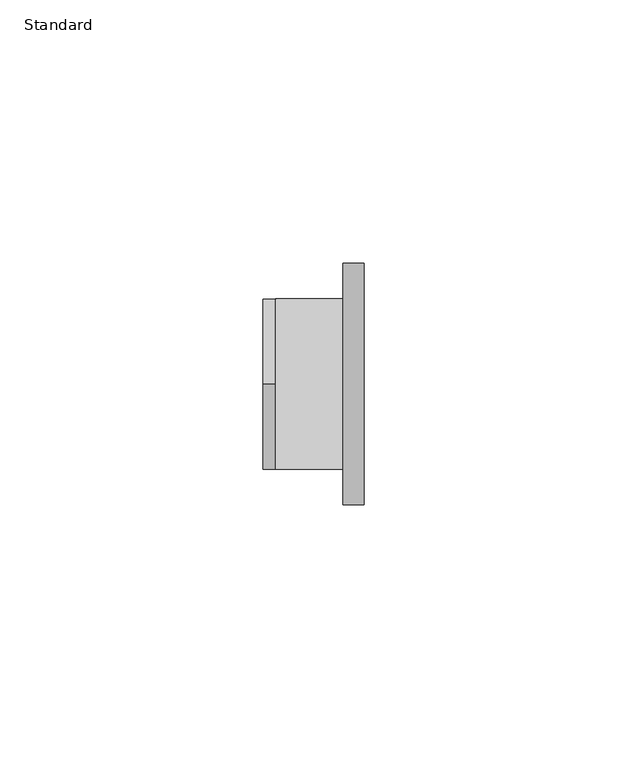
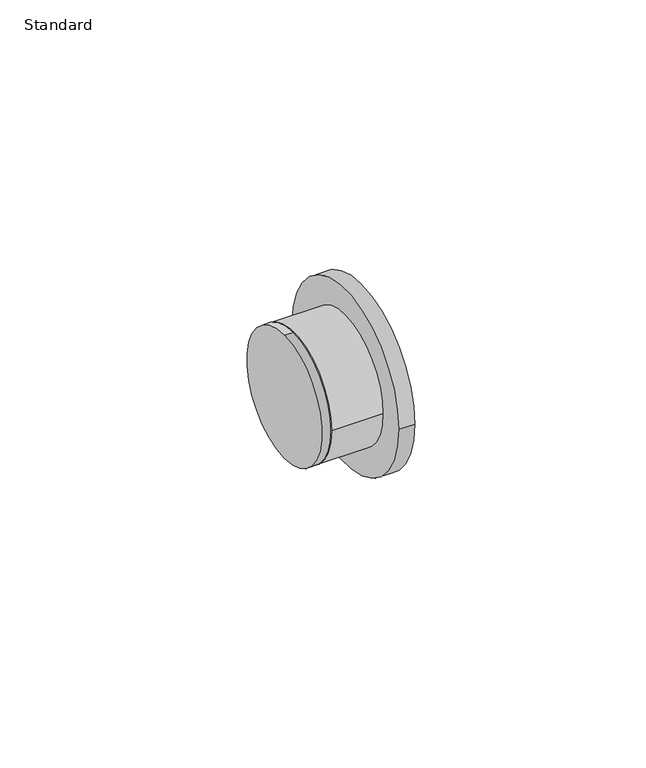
"""IFC4 building model written with IfcOpenShell, lengths in millimetres: pipe fitting geometry, Reducion Bushing_Lubrizol_CPVC_FlowGuard_MX : Standard."""

from ifc_helpers import new_model, si_unit, point, frame, origin, origin_2d, place, context, project, spatial, circle_curve, trimmed, segment, composite_curve, outline, extrude, source, transform, mapped, element, save


def standard_2b73e99e(model_context):
    return source(origin(), model_context, "Body", "SweptSolid", [
        extrude(outline(composite_curve([segment(trimmed(circle_curve(origin_2d(), 16.23), [point((-16.23, 0.0))], [point((16.23, 0.0))], False, "CARTESIAN"), True, "CONTINUOUS"), segment(trimmed(circle_curve(origin_2d(), 16.23), [point((16.23, 0.0))], [point((-16.23, 0.0))], False, "CARTESIAN"), True, "CONTINUOUS")], self_intersect=False)), frame((2.375, 0.0, 0.0), z_axis=(1.0, 0.0, 0.0), x_axis=(0.0, 1.0, 0.0)), (0.0, 0.0, 1.0), 12.844),
        extrude(outline(composite_curve([segment(trimmed(circle_curve(origin_2d(), 22.99), [point((-22.99, 0.0))], [point((22.99, 0.0))], False, "CARTESIAN"), True, "CONTINUOUS"), segment(trimmed(circle_curve(origin_2d(), 22.99), [point((22.99, 0.0))], [point((-22.99, 0.0))], False, "CARTESIAN"), True, "CONTINUOUS")], self_intersect=False)), frame((15.219, 0.0, 0.0), z_axis=(1.0, 0.0, 0.0), x_axis=(0.0, 1.0, 0.0)), (0.0, 0.0, 1.0), 4.0),
        extrude(outline(composite_curve([segment(trimmed(circle_curve(origin_2d(), 16.23), [point((0.0, 16.23))], [point((0.0, -16.23))], False, "CARTESIAN"), True, "CONTINUOUS"), segment(trimmed(circle_curve(origin_2d(), 16.23), [point((0.0, -16.23))], [point((0.0, 16.23))], False, "CARTESIAN"), True, "CONTINUOUS")], self_intersect=False)), frame((0.0, 0.0, 0.0), z_axis=(1.0, 0.0, 0.0), x_axis=(0.0, 1.0, 0.0)), (0.0, 0.0, 1.0), 2.375),
    ])


if __name__ == "__main__":
    model = new_model("IFC4")
    model_context = context("Model", 3, world=origin())
    ifc_project = project(units=[si_unit("LENGTHUNIT", "METRE", prefix="MILLI")], contexts=[model_context])
    site = spatial("IfcSite", under=ifc_project)
    building = spatial("IfcBuilding", under=site)
    placement = place(None, origin())
    standard_shape = standard_2b73e99e(model_context)
    element("IfcPipeFitting", 1, ObjectType="Reducion Bushing_Lubrizol_CPVC_FlowGuard_MX : Standard", at=placement, inside=building, context=model_context, shape_type="MappedRepresentation", body=[
        mapped(standard_shape, transform((0.0, 0.0, 0.0), x_axis=(1.0, 0.0, 0.0), y_axis=(0.0, 1.0, 0.0), z_axis=(0.0, 0.0, 1.0))),
    ])
    save(model, "model.ifc")
